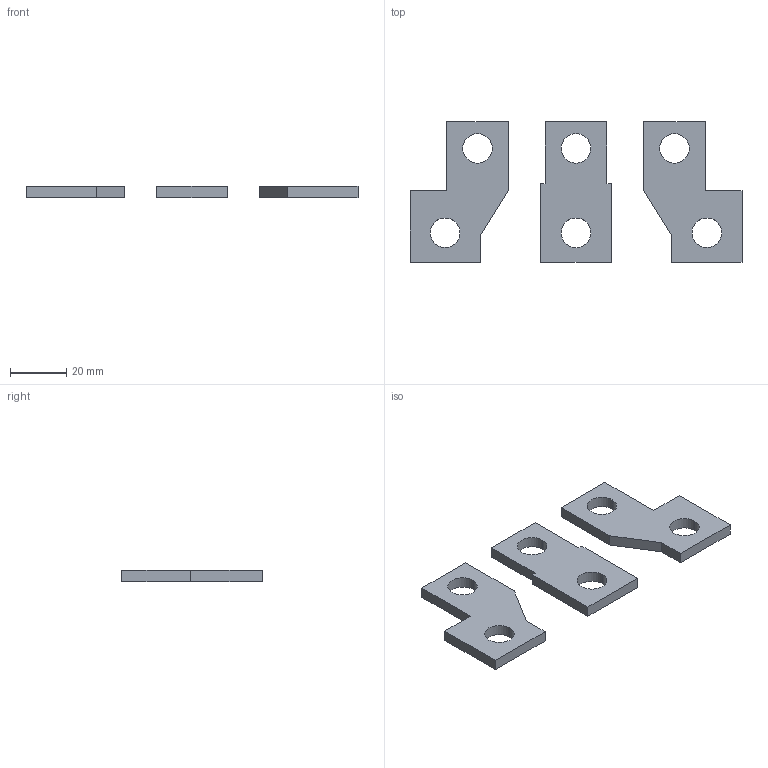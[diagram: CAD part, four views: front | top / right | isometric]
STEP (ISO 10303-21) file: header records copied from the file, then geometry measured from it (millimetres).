
FILE_DESCRIPTION (( 'STEP AP214' ), '1' );
FILE_NAME ('OptiMat E250 ðàñøèðèòåëè ïîëþñîâ íèæíèå.STEP', '2023-11-09T12:23:01', ( '' ), ( '' ), 'SwSTEP 2.0', 'SolidWorks 2018', '' );
FILE_SCHEMA (( 'AUTOMOTIVE_DESIGN' ));
Length unit declared in the file: millimetre
Products named in the file (3): OptiMat E250 ðàñøèðèòåëè ïîëþñîâ íèæíèå; Ðàñøèðèòåëè ïîëþñîâ OptiMat E250-ÓÕË3-3øò. Âûâîä êðàéíèé; Ðàñøèðèòåëè ïîëþñîâ OptiMat E250-ÓÕË3-3øò. Âûâîä ñðåäíèé
Assembly tree (3 placements, depth 2):
  OptiMat E250 ðàñøèðèòåëè ïîëþñîâ íèæíèå
    Ðàñøèðèòåëè ïîëþñîâ OptiMat E250-ÓÕË3-3øò. Âûâîä êðàéíèé  x2
    Ðàñøèðèòåëè ïîëþñîâ OptiMat E250-ÓÕË3-3øò. Âûâîä ñðåäíèé
Bounding box: 118 x 50 x 4 mm (x, y, z)
Volume: 12709.8 mm3; surface area: 9049.5 mm2
Topology: 3 solids, 3 shells, 42 faces, 108 edges, 72 vertices
Faces by surface type: plane 30, cylinder 12
Entity records: 986 total; most frequent: DIRECTION 156, CARTESIAN_POINT 154, ORIENTED_EDGE 144, EDGE_CURVE 72, VECTOR 56, LINE 56, AXIS2_PLACEMENT_3D 50, VERTEX_POINT 48
